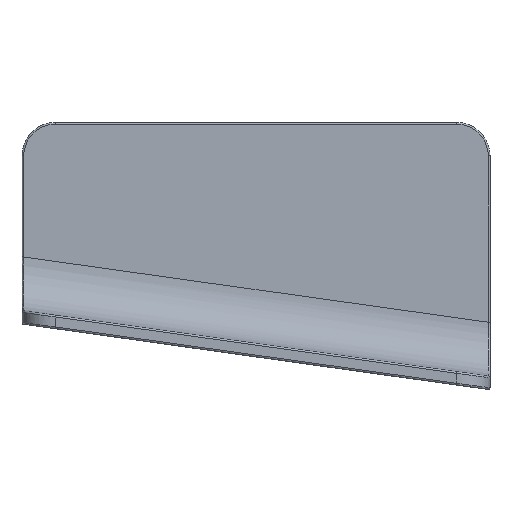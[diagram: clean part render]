
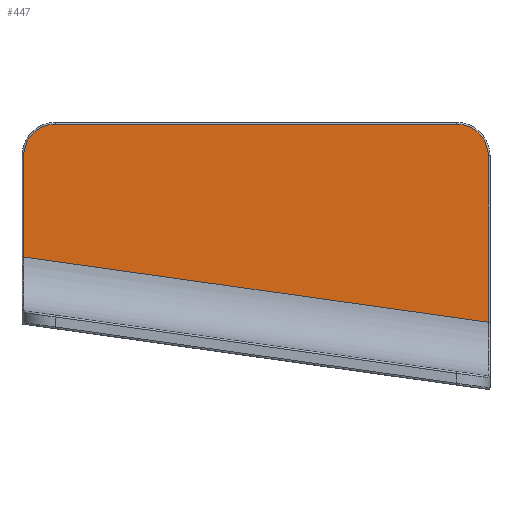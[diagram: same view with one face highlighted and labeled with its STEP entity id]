
A CAD part, top view. The second image highlights one B-rep face of the part: STEP entity #447.
In plain terms, the highlighted planar face has unit normal (0, 0, 1).
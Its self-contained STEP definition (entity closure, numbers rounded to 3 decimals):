
#189=FACE_OUTER_BOUND('',#1035,.T.);
#447=ADVANCED_FACE('',(#189),#713,.T.);
#713=PLANE('',#4946);
#916=CIRCLE('',#4944,9.5);
#917=CIRCLE('',#4945,9.5);
#1035=EDGE_LOOP('',(#2507,#2508,#2509,#2510,#2511,#2512));
#1452=LINE('',#6910,#1940);
#1453=LINE('',#6913,#1941);
#1454=LINE('',#6917,#1942);
#1455=LINE('',#6921,#1943);
#1940=VECTOR('',#5455,1.);
#1941=VECTOR('',#5456,1.);
#1942=VECTOR('',#5459,1.);
#1943=VECTOR('',#5462,1.);
#2507=ORIENTED_EDGE('',*,*,#4317,.T.);
#2508=ORIENTED_EDGE('',*,*,#4318,.T.);
#2509=ORIENTED_EDGE('',*,*,#4319,.T.);
#2510=ORIENTED_EDGE('',*,*,#4320,.T.);
#2511=ORIENTED_EDGE('',*,*,#4321,.T.);
#2512=ORIENTED_EDGE('',*,*,#4322,.T.);
#3879=VERTEX_POINT('',#6911);
#3880=VERTEX_POINT('',#6912);
#3881=VERTEX_POINT('',#6914);
#3882=VERTEX_POINT('',#6916);
#3883=VERTEX_POINT('',#6918);
#3884=VERTEX_POINT('',#6920);
#4317=EDGE_CURVE('',#3879,#3880,#1452,.T.);
#4318=EDGE_CURVE('',#3880,#3881,#1453,.T.);
#4319=EDGE_CURVE('',#3881,#3882,#916,.T.);
#4320=EDGE_CURVE('',#3882,#3883,#1454,.T.);
#4321=EDGE_CURVE('',#3883,#3884,#917,.T.);
#4322=EDGE_CURVE('',#3884,#3879,#1455,.T.);
#4944=AXIS2_PLACEMENT_3D('',#6915,#5457,#5458);
#4945=AXIS2_PLACEMENT_3D('',#6919,#5460,#5461);
#4946=AXIS2_PLACEMENT_3D('',#6922,#5463,#5464);
#5455=DIRECTION('',(0.99,-0.139,0.));
#5456=DIRECTION('',(0.,1.,0.));
#5457=DIRECTION('',(0.,0.,1.));
#5458=DIRECTION('',(0.,-1.,0.));
#5459=DIRECTION('',(-1.,0.,0.));
#5460=DIRECTION('',(0.,0.,1.));
#5461=DIRECTION('',(0.,-1.,0.));
#5462=DIRECTION('',(0.,-1.,0.));
#5463=DIRECTION('',(0.,0.,1.));
#5464=DIRECTION('',(0.,-1.,0.));
#6910=CARTESIAN_POINT('',(-65.062,-0.899,-12.));
#6911=CARTESIAN_POINT('',(-69.5,-0.275,-12.));
#6912=CARTESIAN_POINT('',(69.5,-19.81,-12.));
#6913=CARTESIAN_POINT('',(69.5,-36.038,-12.));
#6914=CARTESIAN_POINT('',(69.5,29.962,-12.));
#6915=CARTESIAN_POINT('',(60.,29.962,-12.));
#6916=CARTESIAN_POINT('',(60.,39.462,-12.));
#6917=CARTESIAN_POINT('',(-70.,39.462,-12.));
#6918=CARTESIAN_POINT('',(-60.,39.462,-12.));
#6919=CARTESIAN_POINT('',(-60.,29.962,-12.));
#6920=CARTESIAN_POINT('',(-69.5,29.962,-12.));
#6921=CARTESIAN_POINT('',(-69.5,29.962,-12.));
#6922=CARTESIAN_POINT('',(-70.,-36.038,-12.));
